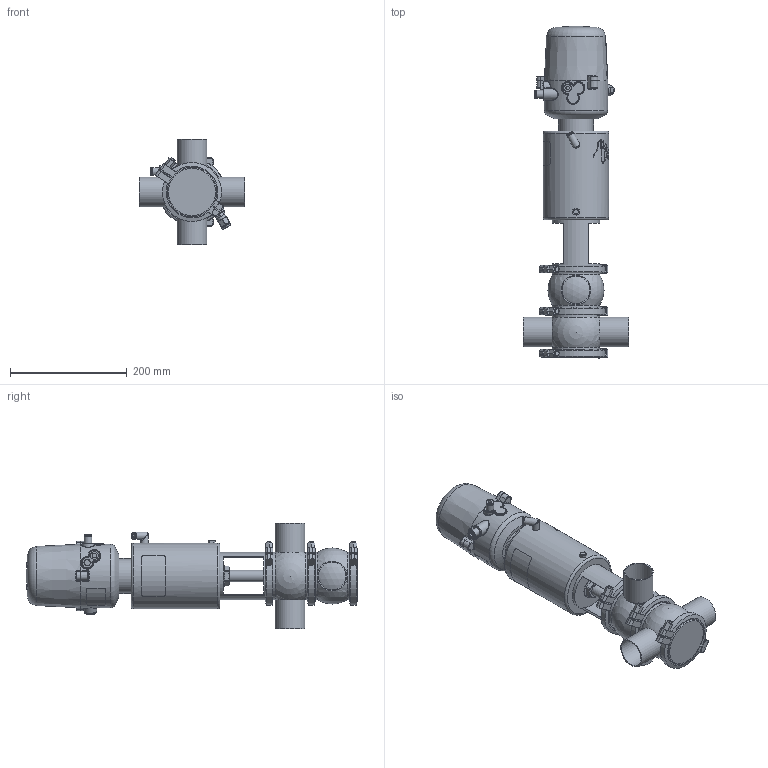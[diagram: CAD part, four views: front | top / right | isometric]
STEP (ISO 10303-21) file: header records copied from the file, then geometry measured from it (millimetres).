
FILE_DESCRIPTION (( 'STEP AP214' ), '1' );
FILE_NAME ('INNOVA M C W OD 2 T2 AS NC & C-TOP S_10.241.16.0043.STEP', '2024-08-07T06:31:54', ( '' ), ( '' ), 'SwSTEP 2.0', 'SolidWorks 2023', '' );
FILE_SCHEMA (( 'AUTOMOTIVE_DESIGN' ));
Length unit declared in the file: millimetre
Products named in the file (8): 10.240.15.0007_OD 2"; INNOVA M C W OD 2 T2 AS NC & C-TOP S_10.241.16.0043; 10.240.15.0017_Estàndard; 10.240.15.0010_DN 050; 10.426.15.0001_C-TOP S - 1 EV; 10.240.15.0014_T2 AS P180; 10.241.15.0001_DIN 050; 10.240.15.0001_DN 050
Assembly tree (10 placements, depth 2):
  INNOVA M C W OD 2 T2 AS NC & C-TOP S_10.241.16.0043
    10.240.15.0007_OD 2"  x2
    10.240.15.0010_DN 050
    10.240.15.0014_T2 AS P180
    10.240.15.0017_Estàndard
    10.426.15.0001_C-TOP S - 1 EV
    10.240.15.0001_DN 050  x3
    10.241.15.0001_DIN 050
Bounding box: 180 x 568.27 x 180 mm (x, y, z)
Volume: 4194744.4 mm3; surface area: 408414 mm2
Topology: 11 solids, 11 shells, 1242 faces, 3012 edges, 2002 vertices
Faces by surface type: plane 444, cylinder 381, cone 211, bspline 160, torus 36, sphere 10
Full cylindrical faces by diameter (mm): 0.371 x17, 0.512 x16, 0.658 x16, 0.795 x16, 0.94 x15, 1.098 x15, 1.241 x13, 1.382 x13, 1.523 x11, 1.669 x10, 2.201 x1, 4 x2, 5.5 x2, 6 x2, 6.15 x1, 8 x8, 8.5 x1, 10 x1, 10.5 x1, 11 x2, 12.5 x3, 13 x2, 13.5 x2, 16 x1, 17 x3, 20 x3, 20.5 x1, 22 x2, 31 x1, 34.5 x3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
Entity records: 57821 total; most frequent: CARTESIAN_POINT 27727, ORIENTED_EDGE 4492, DIRECTION 3623, EDGE_CURVE 2246, VERTEX_POINT 1597, EDGE_LOOP 1555, AXIS2_PLACEMENT_3D 1483, FACE_OUTER_BOUND 1319
